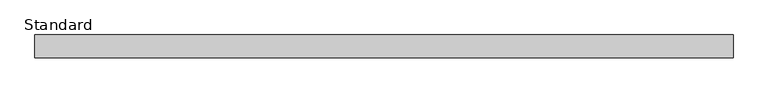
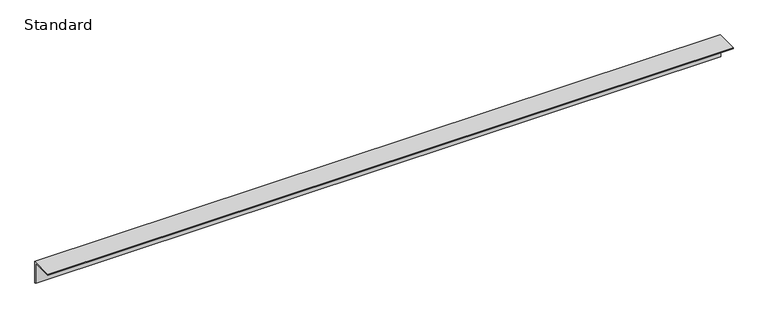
"""IFC4 building model written with IfcOpenShell, lengths in millimetres: furniture geometry, X_Vanity-Angle-Duracube-Bench Support : Standard."""

import ifcopenshell
import ifcopenshell.guid

model = None  # the IFC model being written
_history = None  # IfcOwnerHistory: only IFC2X3 demands one
_inside = {}  # id of a spatial element -> (the spatial element, [elements in it])
_under = {}  # id of a project, library or spatial element -> (it, [spatial elements below it])
_declared = {}  # id of a project -> (the project, [libraries it declares])
_typed = {}  # id of a type object -> (the type object, [elements of that type])
_made_of = {}  # id of a material, layer set ... -> (it, [elements and type objects made of it])


def new_model(schema):
    """Start an empty IFC model of exactly this schema.

    Asked for "IFC4X3", IfcOpenShell would pick the latest addendum, in which some entities
    have other attributes; the version numbers below select the first issue.
    IFC2X3 requires an IfcOwnerHistory on every rooted entity: one is made here for all.
    """
    global model, _history
    if schema == "IFC4X3":
        model = ifcopenshell.file(schema_version=(4, 3, 0, 0))
    else:
        model = ifcopenshell.file(schema=schema)
    _inside.clear()
    _under.clear()
    _declared.clear()
    _typed.clear()
    _made_of.clear()
    _history = None
    if model.schema == "IFC2X3":
        org = make("IfcOrganization", Name="unknown")
        user = make(
            "IfcPersonAndOrganization",
            ThePerson=make("IfcPerson", FamilyName="unknown"),
            TheOrganization=org,
        )
        app = make(
            "IfcApplication",
            ApplicationDeveloper=org,
            Version="unknown",
            ApplicationFullName="unknown",
            ApplicationIdentifier="unknown",
        )
        _history = make(
            "IfcOwnerHistory",
            OwningUser=user,
            OwningApplication=app,
            ChangeAction="ADDED",
            CreationDate=0,
        )
    return model


def make(cls, **values):
    """One entity of the class cls with the attributes given. An attribute that is None is left unset."""
    return model.create_entity(
        cls, **{name: value for name, value in values.items() if value is not None}
    )


def rooted(cls, **values):
    """An entity with a GlobalId (a new one), such as an element, a storey or a relation."""
    return make(cls, GlobalId=ifcopenshell.guid.new(), OwnerHistory=_history, **values)


def si_unit(unit_type, name, prefix=None):
    """IfcSIUnit, for example si_unit("LENGTHUNIT", "METRE", prefix="MILLI")."""
    return make("IfcSIUnit", UnitType=unit_type, Prefix=prefix, Name=name)


def assignment(units):
    """IfcUnitAssignment: the units of a project."""
    return None if units is None else make("IfcUnitAssignment", Units=units)


def point(xyz):
    """IfcCartesianPoint."""
    return None if xyz is None else make("IfcCartesianPoint", Coordinates=xyz)


def direction(xyz):
    """IfcDirection."""
    return None if xyz is None else make("IfcDirection", DirectionRatios=xyz)


def frame(location, z_axis=None, x_axis=None):
    """IfcAxis2Placement3D, a coordinate frame: its origin and axes. An axis left out is left unset."""
    return make(
        "IfcAxis2Placement3D",
        Location=point(location),
        Axis=direction(z_axis),
        RefDirection=direction(x_axis),
    )


def origin():
    """The frame at (0, 0, 0) with its axes left unset."""
    return frame((0.0, 0.0, 0.0))


def place(relative_to, where):
    """IfcLocalPlacement: puts the frame where relative to a parent placement (None: the world)."""
    return make(
        "IfcLocalPlacement", PlacementRelTo=relative_to, RelativePlacement=where
    )


def context(
    kind, dimensions, precision=None, world=None, true_north=None, identifier=None
):
    """IfcGeometricRepresentationContext, for example the 3D "Model" context."""
    return make(
        "IfcGeometricRepresentationContext",
        ContextIdentifier=identifier,
        ContextType=kind,
        CoordinateSpaceDimension=dimensions,
        Precision=precision,
        WorldCoordinateSystem=world,
        TrueNorth=true_north,
    )


def project(units=None, contexts=None):
    """IfcProject with its units and contexts."""
    return rooted(
        "IfcProject",
        Name="project",
        RepresentationContexts=contexts,
        UnitsInContext=assignment(units),
    )


def spatial(cls, under=None, at=None, **own):
    """A site, building, storey or space (cls), placed at a placement, below another one or the project."""
    s = rooted(cls, ObjectPlacement=at, **own)
    if under is not None:
        _under.setdefault(under.id(), (under, []))[1].append(s)
    return s


def polyline(points):
    """IfcPolyline through the points."""
    return make("IfcPolyline", Points=[point(p) for p in points])


def outline(outer, holes=None, kind="AREA"):
    """IfcArbitraryClosedProfileDef: a profile drawn as a closed curve; with holes, ...WithVoids."""
    if holes is None:
        return make("IfcArbitraryClosedProfileDef", ProfileType=kind, OuterCurve=outer)
    return make(
        "IfcArbitraryProfileDefWithVoids",
        ProfileType=kind,
        OuterCurve=outer,
        InnerCurves=holes,
    )


def extrude(swept, where, along, depth):
    """IfcExtrudedAreaSolid: the profile swept, set in the frame where, extruded along a direction by depth."""
    return make(
        "IfcExtrudedAreaSolid",
        SweptArea=swept,
        Position=where,
        ExtrudedDirection=direction(along),
        Depth=depth,
    )


def shape(context_of_items, identifier, shape_type, items):
    """IfcShapeRepresentation: the items that make up one representation, for example the "Body"."""
    return make(
        "IfcShapeRepresentation",
        ContextOfItems=context_of_items,
        RepresentationIdentifier=identifier,
        RepresentationType=shape_type,
        Items=items,
    )


def source(mapping_origin, context_of_items, identifier, shape_type, items):
    """IfcRepresentationMap: a shape defined once, which mapped items show again and again."""
    return make(
        "IfcRepresentationMap",
        MappingOrigin=mapping_origin,
        MappedRepresentation=shape(context_of_items, identifier, shape_type, items),
    )


def transform(
    local_origin,
    x_axis=None,
    y_axis=None,
    z_axis=None,
    scale=None,
    scale2=None,
    scale3=None,
    uniform=True,
):
    """IfcCartesianTransformationOperator3D, or its non-uniform kind. x_axis, y_axis, z_axis: its Axis1, 2, 3."""
    if uniform:
        return make(
            "IfcCartesianTransformationOperator3D",
            Axis1=direction(x_axis),
            Axis2=direction(y_axis),
            LocalOrigin=point(local_origin),
            Scale=scale,
            Axis3=direction(z_axis),
        )
    return make(
        "IfcCartesianTransformationOperator3DnonUniform",
        Axis1=direction(x_axis),
        Axis2=direction(y_axis),
        LocalOrigin=point(local_origin),
        Scale=scale,
        Axis3=direction(z_axis),
        Scale2=scale2,
        Scale3=scale3,
    )


def mapped(mapping_source, mapping_target):
    """IfcMappedItem: shows the shape of a source again, moved by a transform."""
    return make(
        "IfcMappedItem", MappingSource=mapping_source, MappingTarget=mapping_target
    )


def made_of(thing, what):
    """Note that an element or type object is made of a material, layer set ...; save() writes the relation."""
    if what is not None:
        _made_of.setdefault(what.id(), (what, []))[1].append(thing)
    return thing


def element(
    cls,
    number,
    at=None,
    inside=None,
    cuts=None,
    type_object=None,
    material=None,
    context=None,
    identifier="Body",
    shape_type=None,
    held_by="IfcProductDefinitionShape",
    body=None,
    shapes=None,
    **own,
):
    """One element of the class cls, such as IfcWall. Its Tag is "e" and its number.

    at: its placement. inside: the storey or other place that contains it. cuts: it is an
    opening in that element (IfcRelVoidsElement). A single representation is given by context,
    identifier, shape_type and body (its items); several are given by shapes. held_by: the class
    of the entity that holds the representations. save() writes the other relations.
    """
    e = rooted(cls, Tag="e%d" % number, ObjectPlacement=at, **own)
    if body is not None:
        shapes = [shape(context, identifier, shape_type, body)]
    if shapes is not None:
        e.Representation = make(held_by, Representations=shapes)
    if inside is not None:
        _inside.setdefault(inside.id(), (inside, []))[1].append(e)
    if cuts is not None:
        rooted(
            "IfcRelVoidsElement", RelatingBuildingElement=cuts, RelatedOpeningElement=e
        )
    if type_object is not None:
        _typed.setdefault(type_object.id(), (type_object, []))[1].append(e)
    return made_of(e, material)


def aggregate(whole, parts):
    """IfcRelAggregates: a whole, such as a stair, and the parts it consists of."""
    return rooted("IfcRelAggregates", RelatingObject=whole, RelatedObjects=parts)


def save(model, path):
    """Write the relations noted so far, then the file.

    IfcRelAggregates (storeys below a building ...), IfcRelContainedInSpatialStructure (elements
    in a storey), IfcRelDefinesByType, IfcRelAssociatesMaterial and IfcRelDeclares: one each for
    every whole, place, type object, material and project.
    """
    for whole, parts in _under.values():
        aggregate(whole, parts)
    for where, things in _inside.values():
        rooted(
            "IfcRelContainedInSpatialStructure",
            RelatedElements=things,
            RelatingStructure=where,
        )
    for kind, things in _typed.values():
        rooted("IfcRelDefinesByType", RelatedObjects=things, RelatingType=kind)
    for what, things in _made_of.values():
        rooted("IfcRelAssociatesMaterial", RelatedObjects=things, RelatingMaterial=what)
    for by, libraries in _declared.values():
        rooted("IfcRelDeclares", RelatingContext=by, RelatedDefinitions=libraries)
    model.write(path)


def standard_13bdcb3e(model_context):
    return source(origin(), model_context, "Body", "SweptSolid", [
        extrude(outline(polyline([(0.0, 0.0), (-2.0, 0.0), (-2.0, 38.0), (-40.0, 38.0), (-40.0, 40.0), (0.0, 40.0), (0.0, 0.0)])), frame((-561.7996736, 0.0, 0.0), z_axis=(1.0, 0.0, 0.0), x_axis=(0.0, 1.0, 0.0)), (0.0, 0.0, 1.0), 1213.0),
    ])


if __name__ == "__main__":
    model = new_model("IFC4")
    model_context = context("Model", 3, world=origin())
    ifc_project = project(units=[si_unit("LENGTHUNIT", "METRE", prefix="MILLI")], contexts=[model_context])
    site = spatial("IfcSite", under=ifc_project)
    building = spatial("IfcBuilding", under=site)
    placement = place(None, origin())
    standard_shape = standard_13bdcb3e(model_context)
    element("IfcFurniture", 1, ObjectType="X_Vanity-Angle-Duracube-Bench Support : Standard", at=placement, inside=building, context=model_context, shape_type="MappedRepresentation", body=[
        mapped(standard_shape, transform((0.0, 0.0, 0.0), x_axis=(1.0, 0.0, 0.0), y_axis=(0.0, 1.0, 0.0), z_axis=(0.0, 0.0, 1.0))),
    ])
    save(model, "model.ifc")
